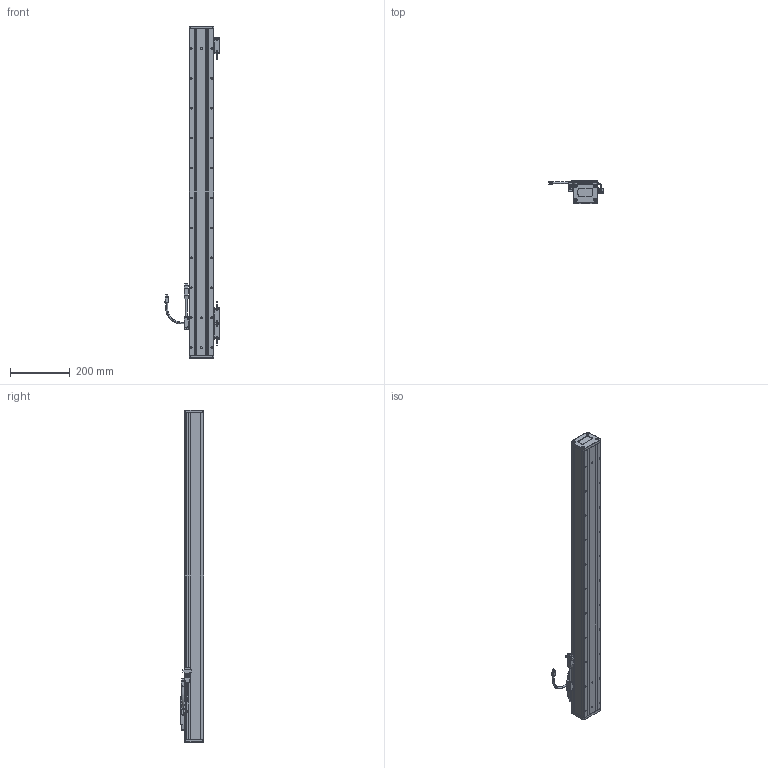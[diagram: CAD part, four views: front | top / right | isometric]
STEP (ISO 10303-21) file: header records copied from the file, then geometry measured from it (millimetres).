
FILE_DESCRIPTION(('Open CASCADE Model'),'2;1');
FILE_NAME('Open CASCADE Shape Model','2025-11-07T02:27:57',('Author'),( 'Open CASCADE'),'Open CASCADE STEP processor 7.6','Open CASCADE 7.6' ,'Unknown');
FILE_SCHEMA(('AUTOMOTIVE_DESIGN { 1 0 10303 214 1 1 1 1 }'));
Length unit declared in the file: millimetre
Products named in the file (24): Open CASCADE STEP translator 7.6 185; Open CASCADE STEP translator 7.6 185.1; Open CASCADE STEP translator 7.6 185.2; Open CASCADE STEP translator 7.6 185.3; Open CASCADE STEP translator 7.6 185.4; Open CASCADE STEP translator 7.6 185.5; Open CASCADE STEP translator 7.6 185.6; Open CASCADE STEP translator 7.6 185.7; Open CASCADE STEP translator 7.6 185.7.1; Open CASCADE STEP translator 7.6 185.7.1.1; Open CASCADE STEP translator 7.6 185.7.1.2; Open CASCADE STEP translator 7.6 185.8; Open CASCADE STEP translator 7.6 185.9; Open CASCADE STEP translator 7.6 185.10; Open CASCADE STEP translator 7.6 185.10.1; Open CASCADE STEP translator 7.6 185.10.1.1; Open CASCADE STEP translator 7.6 185.10.1.2; Open CASCADE STEP translator 7.6 185.10.1.3; Open CASCADE STEP translator 7.6 185.11; Open CASCADE STEP translator 7.6 185.12; Open CASCADE STEP translator 7.6 185.13; Open CASCADE STEP translator 7.6 185.14; Open CASCADE STEP translator 7.6 185.15; Open CASCADE STEP translator 7.6 185.16
Assembly tree (23 placements, depth 4):
  Open CASCADE STEP translator 7.6 185
    Open CASCADE STEP translator 7.6 185.1
    Open CASCADE STEP translator 7.6 185.2
    Open CASCADE STEP translator 7.6 185.3
    Open CASCADE STEP translator 7.6 185.4
    Open CASCADE STEP translator 7.6 185.5
    Open CASCADE STEP translator 7.6 185.6
    Open CASCADE STEP translator 7.6 185.7
      Open CASCADE STEP translator 7.6 185.7.1
        Open CASCADE STEP translator 7.6 185.7.1.1
        Open CASCADE STEP translator 7.6 185.7.1.2
    Open CASCADE STEP translator 7.6 185.8
    Open CASCADE STEP translator 7.6 185.9
    Open CASCADE STEP translator 7.6 185.10
      Open CASCADE STEP translator 7.6 185.10.1
        Open CASCADE STEP translator 7.6 185.10.1.1
        Open CASCADE STEP translator 7.6 185.10.1.2
        Open CASCADE STEP translator 7.6 185.10.1.3
    Open CASCADE STEP translator 7.6 185.11
    Open CASCADE STEP translator 7.6 185.12
    Open CASCADE STEP translator 7.6 185.13
    Open CASCADE STEP translator 7.6 185.14
    Open CASCADE STEP translator 7.6 185.15
    Open CASCADE STEP translator 7.6 185.16
Bounding box: 181.25 x 78 x 1110 mm (x, y, z)
Volume: 3326849.7 mm3; surface area: 711547 mm2
Topology: 19 solids, 19 shells, 1950 faces, 4941 edges, 3141 vertices
Faces by surface type: plane 1084, cylinder 664, cone 112, torus 54, bspline 30, sphere 6
Entity records: 134895 total; most frequent: CARTESIAN_POINT 35993, DIRECTION 18721, LINE 11602, VECTOR 11602, ORIENTED_EDGE 9784, PCURVE 9784, DEFINITIONAL_REPRESENTATION 9784, EDGE_CURVE 4892
